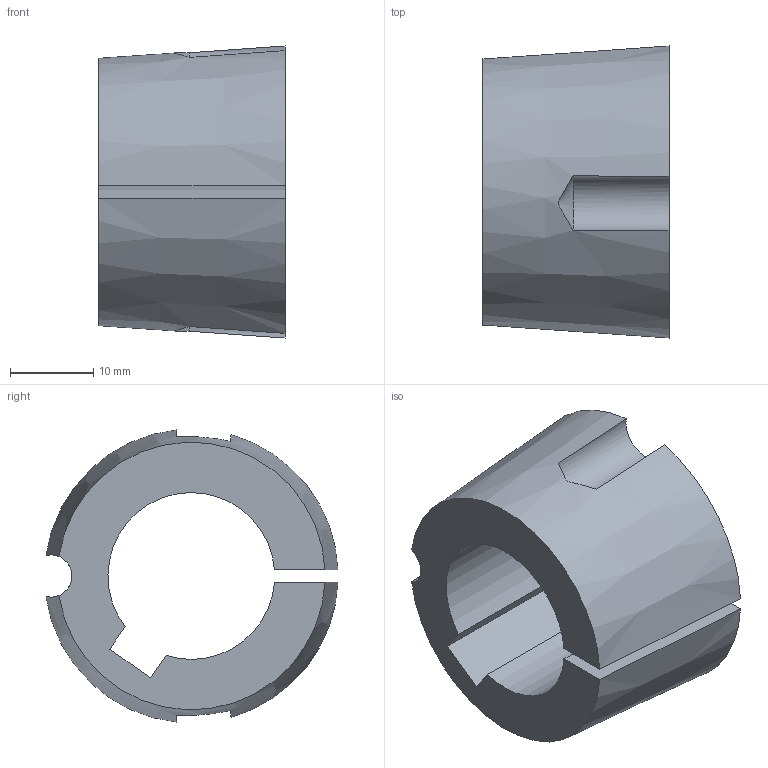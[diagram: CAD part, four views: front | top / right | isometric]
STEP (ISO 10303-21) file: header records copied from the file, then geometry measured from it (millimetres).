
FILE_DESCRIPTION( ( 'STEP AP203' ), '1' );
FILE_NAME( 'D:/export/antriebselemente/spannbuchsen_und_spannsaetze/taper-spannbuchsen_1008_bis_5050/taper-spannbuchsen_62250120Isometric_12.stp', '2018-12-11T11:10:57', ( '' ), ( '' ), ' ', 'PARTsolutions', ' ' );
FILE_SCHEMA( ( 'CONFIG_CONTROL_DESIGN' ) );
Length unit declared in the file: millimetre
Products named in the file (1): _taper-spannbuchsen_62250120
Bounding box: 22.3 x 35.01 x 35.02 mm (x, y, z)
Volume: 11553.2 mm3; surface area: 5342.8 mm2
Topology: 1 solids, 1 shells, 16 faces, 42 edges, 28 vertices
Faces by surface type: plane 7, cylinder 5, cone 4
Entity records: 602 total; most frequent: CARTESIAN_POINT 163, ORIENTED_EDGE 84, DIRECTION 82, EDGE_CURVE 42, AXIS2_PLACEMENT_3D 33, VERTEX_POINT 28, ADVANCED_FACE 16, FACE_OUTER_BOUND 16
